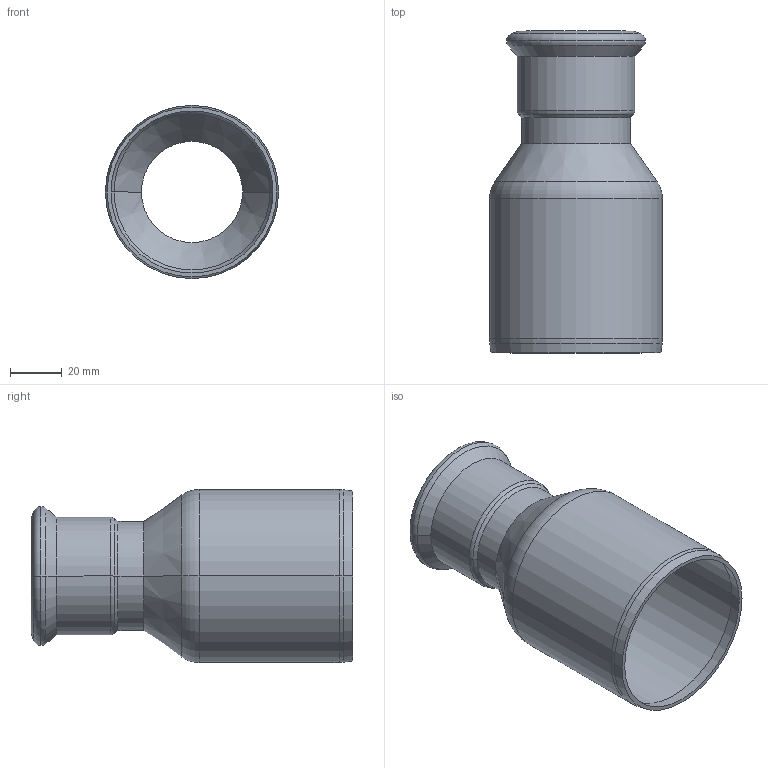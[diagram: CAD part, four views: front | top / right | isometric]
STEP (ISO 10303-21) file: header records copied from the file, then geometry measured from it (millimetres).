
FILE_DESCRIPTION(('CoCreate Modeling STEP Export'),'2;1');
FILE_NAME('C1407 67x42.stp','2014-10-23T15:45:34',(''),(''),'CoCreate Modeling STEP processor for AP214 (Solid Model)','CoCreate Modeling 17.00A 17-Jun-2010 (C) Parametric Technology GmbH','');
FILE_SCHEMA(('AUTOMOTIVE_DESIGN { 1 0 10303 214 1 1 1 1 }'));
Length unit declared in the file: millimetre
Products named in the file (1): Reducer_67x42mm
Bounding box: 66.7 x 124.01 x 66.7 mm (x, y, z)
Volume: 37034.4 mm3; surface area: 46045 mm2
Topology: 1 solids, 1 shells, 56 faces, 112 edges, 58 vertices
Faces by surface type: cone 20, torus 18, cylinder 16, plane 2
Entity records: 1173 total; most frequent: ORIENTED_EDGE 224, DIRECTION 188, CARTESIAN_POINT 170, EDGE_CURVE 112, AXIS2_PLACEMENT_3D 76, VERTEX_POINT 58, EDGE_LOOP 58, FACE_OUTER_BOUND 56
